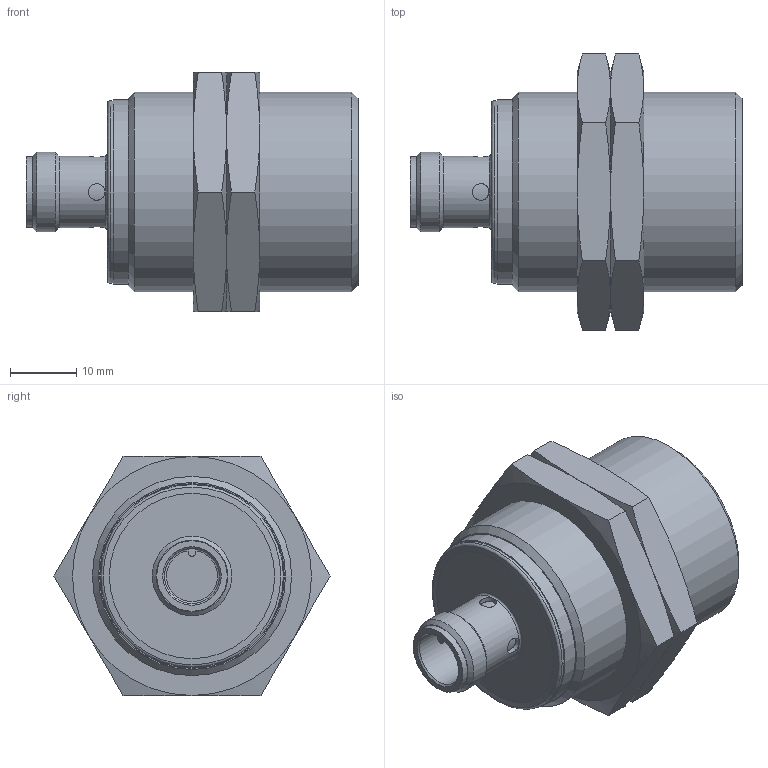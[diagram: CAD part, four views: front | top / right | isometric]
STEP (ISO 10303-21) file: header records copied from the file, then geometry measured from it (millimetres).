
FILE_DESCRIPTION( ( 'STEP AP203' ), '1' );
FILE_NAME( 'p:/temp/worker_27/temp/app_40_02018091713092944325468192d056f_000000_00_00_000000/format_0/IIC200.stp', '2018-09-17T11:09:31', ( '' ), ( '' ), ' ', 'PARTsolutions', ' ' );
FILE_SCHEMA( ( 'CONFIG_CONTROL_DESIGN' ) );
Length unit declared in the file: millimetre
Products named in the file (3): IIC200; _IIC200_P1; _iit226_part2
Assembly tree (3 placements, depth 2):
  IIC200
    _IIC200_P1
    _iit226_part2  x2
Bounding box: 50 x 41.57 x 36 mm (x, y, z)
Volume: 31678.8 mm3; surface area: 9446.9 mm2
Topology: 3 solids, 3 shells, 86 faces, 177 edges, 103 vertices
Faces by surface type: cone 34, plane 27, cylinder 20, torus 5
Full cylindrical faces by diameter (mm): 2.5 x4, 8.3 x1, 10.6 x1, 10.8 x1, 12 x1, 27.29 x1, 27.5 x1, 27.66 x1, 27.8 x1, 28.376 x2, 30 x1
Entity records: 1934 total; most frequent: CARTESIAN_POINT 668, DIRECTION 246, ORIENTED_EDGE 194, AXIS2_PLACEMENT_3D 116, EDGE_LOOP 97, EDGE_CURVE 97, FACE_OUTER_BOUND 81, VERTEX_POINT 70
